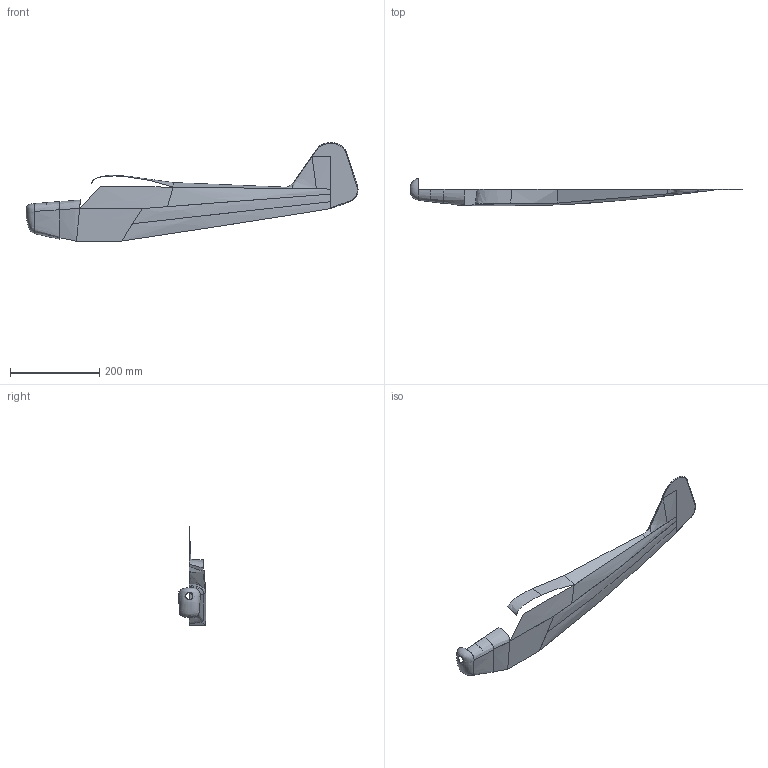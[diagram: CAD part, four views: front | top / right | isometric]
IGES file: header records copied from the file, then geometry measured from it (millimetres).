
Global section: file name: C:\Documents and Settings\Kenny\; native system: Rhinoceros ( Jan 18 2007 ); preprocessor: Trout Lake IGES 012 Jan 18 2007; date: 090928.223953; units: millimetre
Bounding box: 744.14 x 61.28 x 221.15 mm (x, y, z)
Surface area: 109711.5 mm2 (no closed solid volume)
Topology: 0 solids, 0 shells, 28 faces, 572 edges, 643 vertices
Faces by surface type: bspline 28
